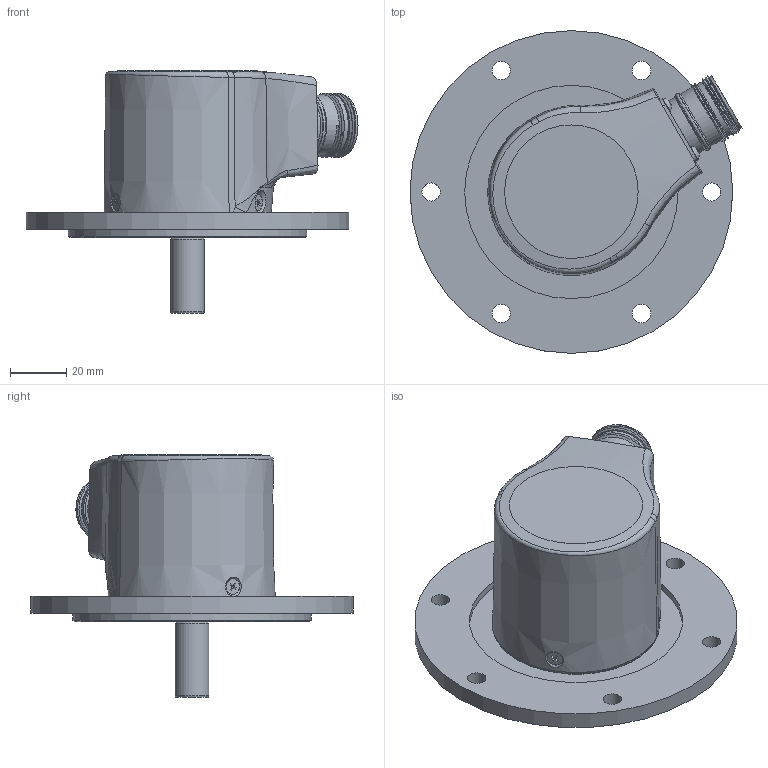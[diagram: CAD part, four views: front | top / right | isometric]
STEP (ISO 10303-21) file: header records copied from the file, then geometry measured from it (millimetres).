
FILE_DESCRIPTION(/* description */ ('Unknown'),/* implementation_level */ '2;1');
FILE_NAME(/* name */ 'EAR_EAMR_115_A_HAR',/* time_stamp */ '2018-04-20T11:06:15+02:00',/* author */ ('Unknown'),/* organization */ ('Unknown'),/* preprocessor_version */ 'ST-DEVELOPER v16.7',/* originating_system */ 'DEX',/* authorisation */ $);
FILE_SCHEMA (('AUTOMOTIVE_DESIGN {1 0 10303 214 3 1 1}'));
Length unit declared in the file: millimetre
Products named in the file (1): tmpEAR_EAMR_115_A_HAR
Bounding box: 118.3 x 115 x 86.5 mm (x, y, z)
Volume: 134436.8 mm3; surface area: 63906.1 mm2
Topology: 1 solids, 17 shells, 570 faces, 1387 edges, 909 vertices
Faces by surface type: plane 276, cylinder 147, cone 76, bspline 33, torus 26, sphere 12
Full cylindrical faces by diameter (mm): 1 x12, 1.15 x12, 1.65 x12, 2.013 x7, 2.459 x10, 3 x10, 3.1 x4, 3.4 x3, 5.6 x3, 6 x4, 6.5 x6, 8 x6, 10 x2, 12 x1, 18.5 x1, 19.25 x1, 20 x1, 21.5 x6, 22 x4, 22.1 x2, 22.667 x1, 22.691 x1, 29 x1, 51.2 x1, 54 x3, 56 x1, 59.5 x1, 76 x1, 85 x1, 115 x1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
Entity records: 22314 total; most frequent: CARTESIAN_POINT 6979, DIRECTION 2275, ORIENTED_EDGE 1990, EDGE_CURVE 995, AXIS2_PLACEMENT_3D 946, FACE_BOUND 909, EDGE_LOOP 891, VERTEX_POINT 778
